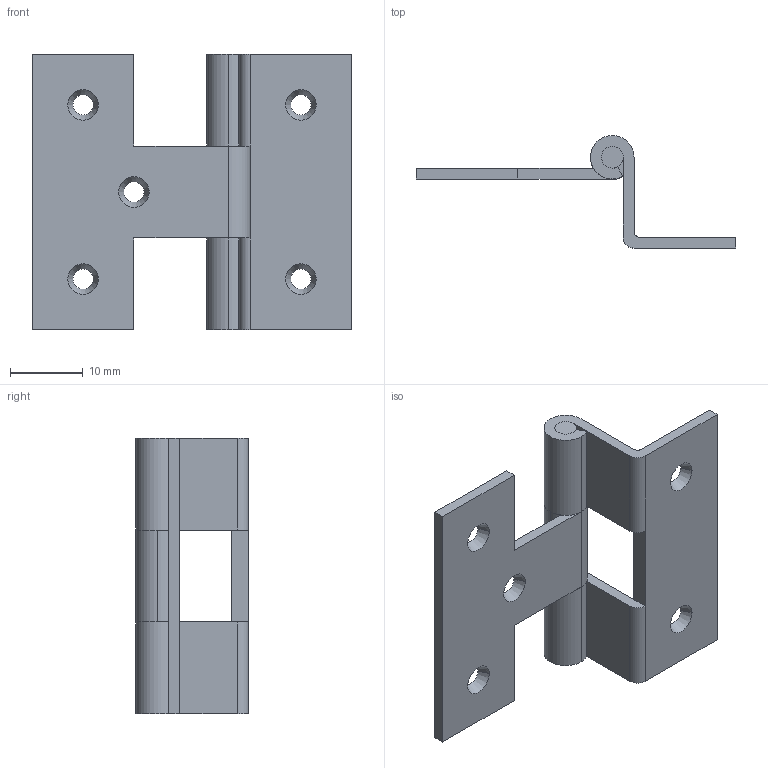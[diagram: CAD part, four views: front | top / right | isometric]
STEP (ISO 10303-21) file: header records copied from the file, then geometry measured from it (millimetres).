
FILE_DESCRIPTION(('STEP AP203'),'1');
FILE_NAME(' ',' ',('TraceParts'),('TraceParts S.A.'),'XStep 1.0',' ',' ');
FILE_SCHEMA(('CONFIG_CONTROL_DESIGN'));
Length unit declared in the file: millimetre
Products named in the file (2): 1; 2
Bounding box: 44 x 15.5 x 38 mm (x, y, z)
Volume: 3175.1 mm3; surface area: 4668.4 mm2
Topology: 2 solids, 2 shells, 57 faces, 155 edges, 102 vertices
Faces by surface type: plane 26, cylinder 21, cone 10
Entity records: 1931 total; most frequent: DIRECTION 339, CARTESIAN_POINT 316, ORIENTED_EDGE 310, EDGE_CURVE 155, AXIS2_PLACEMENT_3D 125, VERTEX_POINT 102, LINE 89, VECTOR 89
